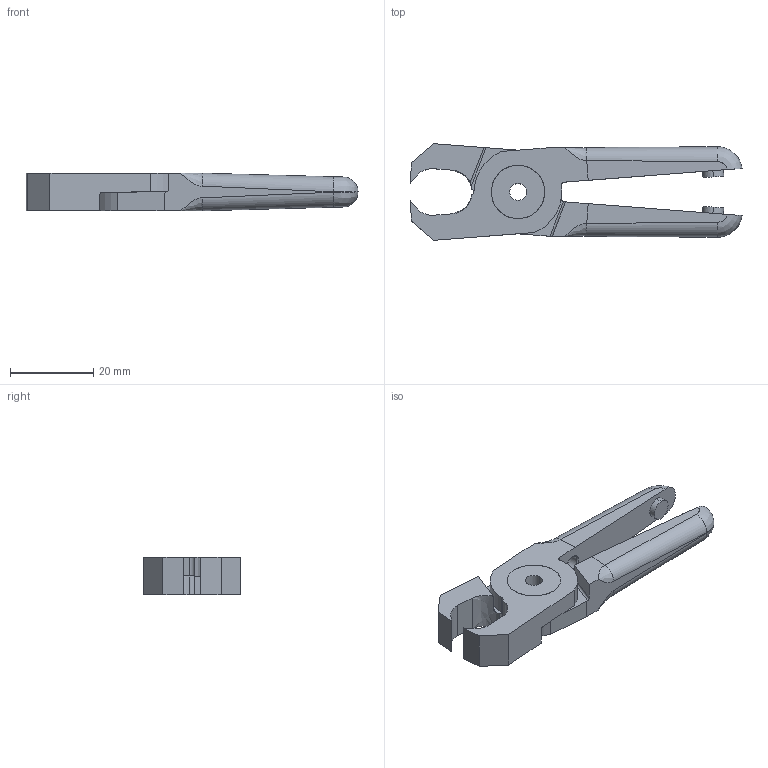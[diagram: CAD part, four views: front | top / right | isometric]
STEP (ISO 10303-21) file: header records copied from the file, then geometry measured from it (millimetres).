
FILE_DESCRIPTION (( 'STEP AP214' ), '1' );
FILE_NAME ('N7AE.STEP', '2019-11-29T03:55:00', ( '微软用户' ), ( '微软中国' ), 'SwSTEP 2.0', 'SolidWorks 2016', '' );
FILE_SCHEMA (( 'AUTOMOTIVE_DESIGN' ));
Length unit declared in the file: millimetre
Products named in the file (4): N7AE; BR2; BR1; BS
Assembly tree (3 placements, depth 2):
  N7AE
    BS
    BR1
    BR2
Bounding box: 79.65 x 23.18 x 9 mm (x, y, z)
Volume: 9402.3 mm3; surface area: 6392.1 mm2
Topology: 3 solids, 3 shells, 104 faces, 276 edges, 172 vertices
Faces by surface type: plane 37, bspline 26, cylinder 23, cone 18
Entity records: 4441 total; most frequent: CARTESIAN_POINT 1986, ORIENTED_EDGE 532, DIRECTION 416, EDGE_CURVE 266, VERTEX_POINT 172, AXIS2_PLACEMENT_3D 142, VECTOR 132, LINE 132
